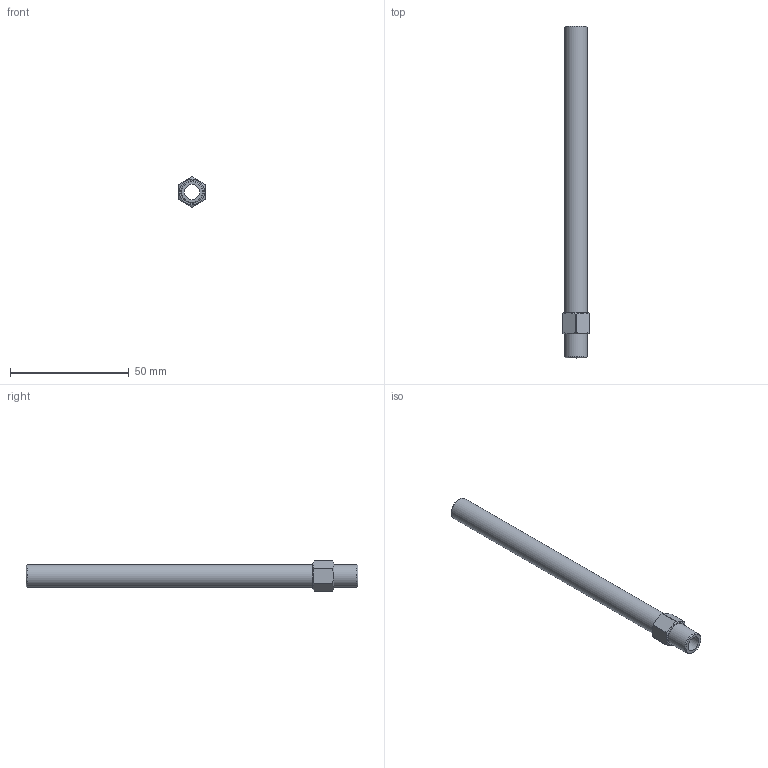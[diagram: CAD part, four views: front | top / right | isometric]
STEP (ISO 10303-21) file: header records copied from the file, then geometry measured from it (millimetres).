
FILE_DESCRIPTION(/* description */ (''),/* implementation_level */ '2;1');
FILE_NAME(/* name */ 'C:/Users/drich/Desktop/APN18-5-1_2 v1.step',/* time_stamp */ '2019-12-27T17:51:43-06:00',/* author */ (''),/* organization */ (''),/* preprocessor_version */ 'ST-DEVELOPER v18',/* originating_system */ 'Autodesk Translation Framework v8.12.0.6',/* authorisation */ '');
FILE_SCHEMA (('AUTOMOTIVE_DESIGN { 1 0 10303 214 3 1 1 }','MODEL_BASED_INTEGRATED_MANUFACTURING_SCHEMA'));
Length unit declared in the file: inch
Products named in the file (1): APN18-5-1_2
Bounding box: 11.07 x 139.7 x 12.7 mm (x, y, z)
Volume: 6017.6 mm3; surface area: 7196.2 mm2
Topology: 1 solids, 1 shells, 23 faces, 59 edges, 40 vertices
Faces by surface type: plane 10, cylinder 9, cone 4
Full cylindrical faces by diameter (mm): 6.35 x1, 9.621 x2
Entity records: 751 total; most frequent: CARTESIAN_POINT 147, DIRECTION 123, ORIENTED_EDGE 118, EDGE_CURVE 59, AXIS2_PLACEMENT_3D 52, VERTEX_POINT 40, CIRCLE 28, EDGE_LOOP 27
